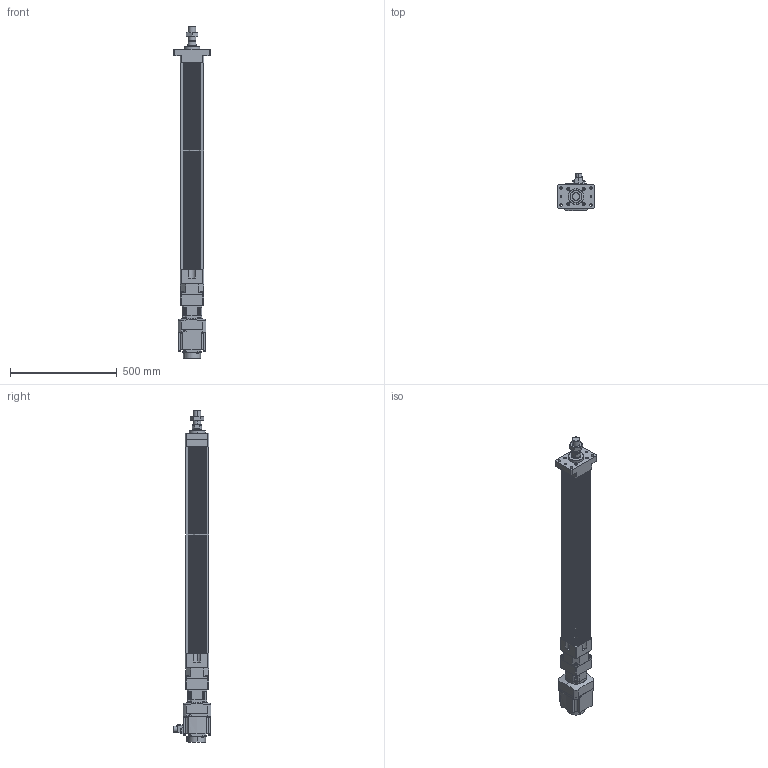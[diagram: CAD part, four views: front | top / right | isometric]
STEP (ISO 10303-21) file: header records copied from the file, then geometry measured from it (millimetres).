
FILE_DESCRIPTION (( 'STEP AP203' ), '1' );
FILE_NAME ('HES110NS(HS)-S800-W010G00-M-FM.STEP', '2023-01-27T07:42:34', ( 'tms' ), ( '' ), 'SwSTEP 2.0', 'SolidWorks 2013', '' );
FILE_SCHEMA (( 'CONFIG_CONTROL_DESIGN' ));
Length unit declared in the file: millimetre
Products named in the file (8): P0401301004; AB090-003[HG-SR102B]; AB0901; HES110 ROD M ST800; HG-SR102; HES110-S800-G090-FM; M36X1.5P; HES110NS(HS)-S800-W010G00-M-FM
Assembly tree (7 placements, depth 3):
  HES110NS(HS)-S800-W010G00-M-FM
    HES110-S800-G090-FM
    HES110 ROD M ST800
    M36X1.5P
    AB090-003[HG-SR102B]
      AB0901
      P0401301004
    HG-SR102
Bounding box: 170 x 177.49 x 1558.5 mm (x, y, z)
Volume: 10080952.3 mm3; surface area: 1423287.2 mm2
Topology: 4 solids, 15 shells, 1165 faces, 2950 edges, 1921 vertices
Faces by surface type: plane 558, cylinder 523, cone 72, bspline 8, torus 4
Entity records: 37081 total; most frequent: CARTESIAN_POINT 7224, DIRECTION 6367, ORIENTED_EDGE 5848, EDGE_CURVE 2934, AXIS2_PLACEMENT_3D 2335, VERTEX_POINT 1921, VECTOR 1697, LINE 1697
